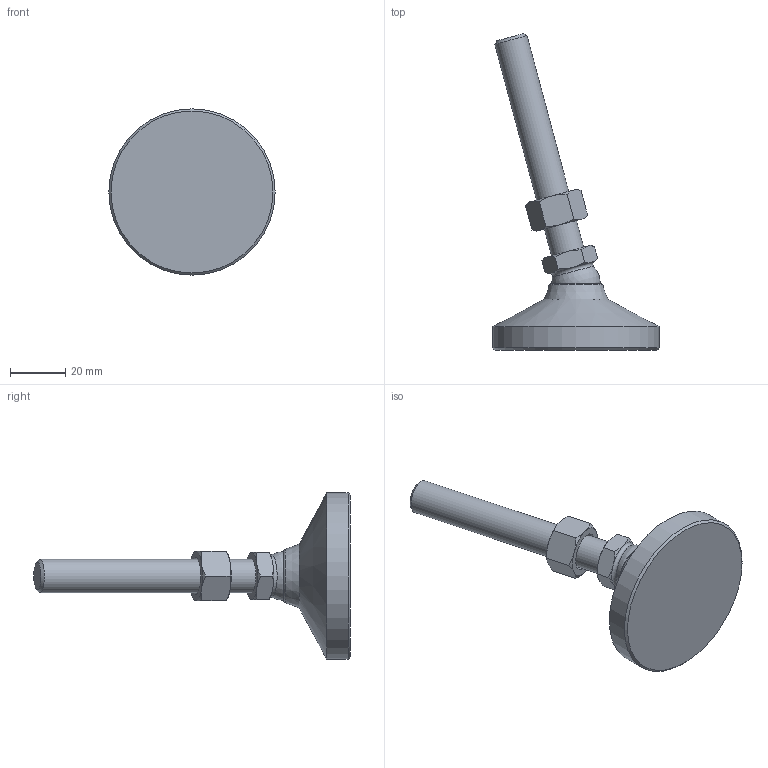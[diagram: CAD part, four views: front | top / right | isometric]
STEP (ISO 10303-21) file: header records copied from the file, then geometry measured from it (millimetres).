
FILE_DESCRIPTION( ( 'STEP AP214' ), ' ' );
FILE_NAME( 'O:/ganter_2015/teil_2/2_5/gn343_2/gn343_2_os/Levelling foot with threaded stud GN 343.2-60-M12-80-OS-(15).stp', '2015-10-26T09:08:21', ( '' ), ( '' ), ' ', 'PARTsolutions', ' ' );
FILE_SCHEMA( ( 'AUTOMOTIVE_DESIGN { 1 0 10303 214 1 1 1 1 }' ) );
Length unit declared in the file: millimetre
Products named in the file (4): Levelling foot with threaded stud GN 343.2-60-M12-80-OS-(15); _Levelling foot with threaded stud GN 343.2-60-M12-80-OS-(15)_foot; _Levelling foot with threaded stud GN 343.2-60-M12-80-OS-(15)_screw; _Stainless Steel-Levelling feet GN 343.2-60-M12-80-OS-(15)_nut
Assembly tree (3 placements, depth 2):
  Levelling foot with threaded stud GN 343.2-60-M12-80-OS-(15)
    _Levelling foot with threaded stud GN 343.2-60-M12-80-OS-(15)_foot
    _Levelling foot with threaded stud GN 343.2-60-M12-80-OS-(15)_screw
    _Stainless Steel-Levelling feet GN 343.2-60-M12-80-OS-(15)_nut
Bounding box: 60 x 114.17 x 60 mm (x, y, z)
Volume: 54089.5 mm3; surface area: 13736.9 mm2
Topology: 3 solids, 3 shells, 55 faces, 116 edges, 67 vertices
Faces by surface type: cone 30, plane 18, cylinder 3, torus 2, sphere 2
Full cylindrical faces by diameter (mm): 10.106 x1, 12 x1, 60 x1
Entity records: 2038 total; most frequent: CARTESIAN_POINT 495, DIRECTION 208, ORIENTED_EDGE 198, EDGE_CURVE 99, AXIS2_PLACEMENT_3D 98, EDGE_LOOP 70, VERTEX_POINT 65, FACE_OUTER_BOUND 60
